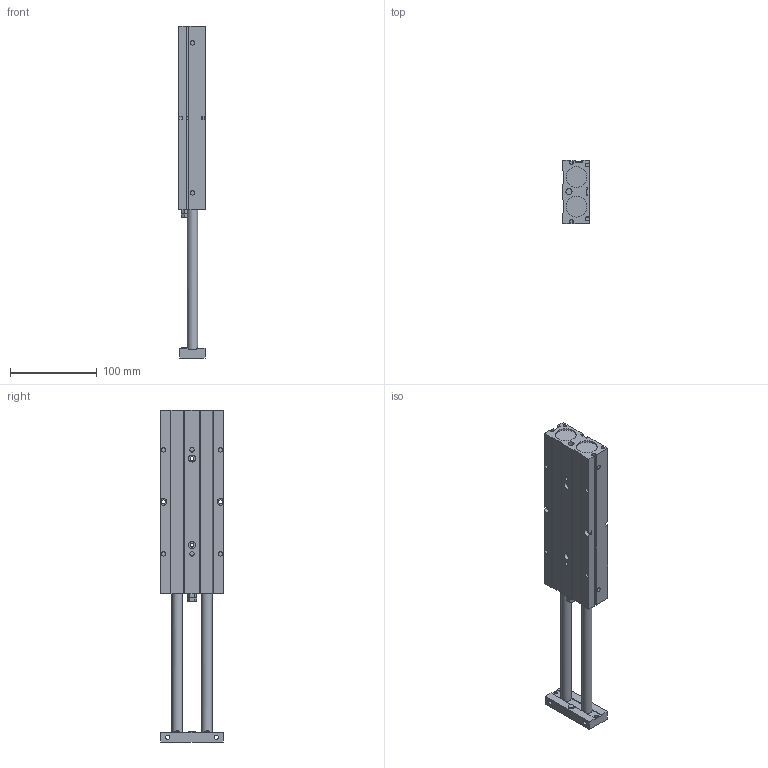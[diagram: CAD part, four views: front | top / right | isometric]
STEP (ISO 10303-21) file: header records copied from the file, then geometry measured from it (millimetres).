
FILE_DESCRIPTION((''),'2;1');
FILE_NAME('I:\3D電子目錄\氣缸\TD\TD25\TD25\TD25x150.stp','2007-08-06T09:52:40',('Administrator'),(''),'Autodesk Inventor 2008','Autodesk Inventor 2008','');
FILE_SCHEMA(('AUTOMOTIVE_DESIGN { 1 0 10303 214 1 1 1 1 }'));
Length unit declared in the file: millimetre
Products named in the file (1): TD25X150
Bounding box: 31 x 73 x 383 mm (x, y, z)
Volume: 497865.6 mm3; surface area: 84571.7 mm2
Topology: 1 solids, 3 shells, 197 faces, 494 edges, 324 vertices
Faces by surface type: plane 132, cylinder 52, cone 7, bspline 4, torus 2
Full cylindrical faces by diameter (mm): 4 x2, 4.5 x4, 5 x10, 7 x2, 8 x4, 10 x2, 11 x2, 12 x4, 24 x4
Entity records: 6021 total; most frequent: CARTESIAN_POINT 1449, DIRECTION 915, ORIENTED_EDGE 878, EDGE_CURVE 439, VERTEX_POINT 314, AXIS2_PLACEMENT_3D 312, VECTOR 291, LINE 291
